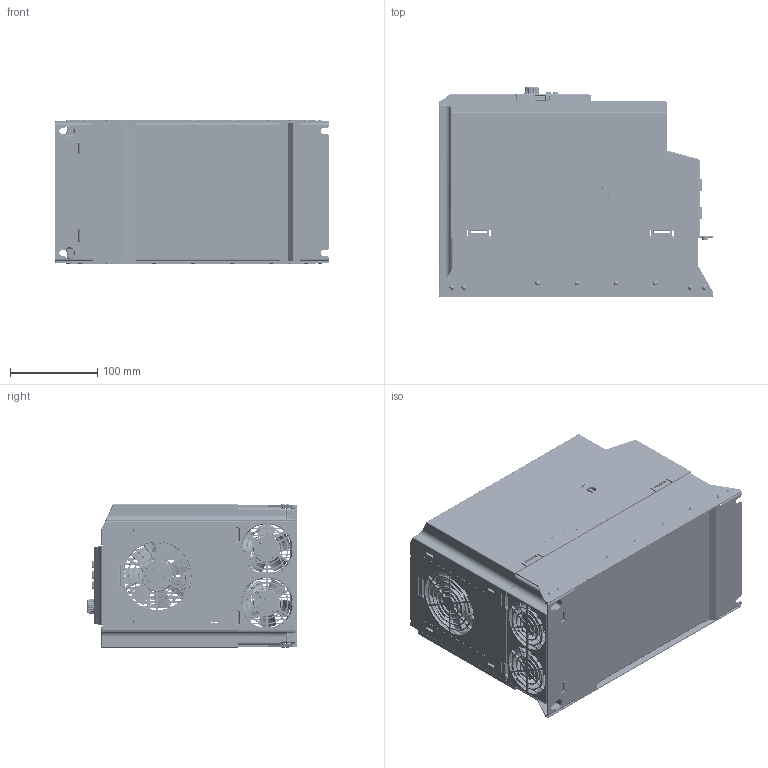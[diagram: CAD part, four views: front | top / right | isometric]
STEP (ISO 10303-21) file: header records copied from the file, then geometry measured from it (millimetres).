
FILE_DESCRIPTION((''),'2;1');
FILE_NAME('VFC3610_18K5W_ASM_ASM','2014-08-12T',('zhi2xi'),(''),'PRO/ENGINEER BY PARAMETRIC TECHNOLOGY CORPORATION, 2009380','PRO/ENGINEER BY PARAMETRIC TECHNOLOGY CORPORATION, 2009380','');
FILE_SCHEMA(('CONFIG_CONTROL_DESIGN'));
Length unit declared in the file: millimetre
Products named in the file (58): MANIFOLD_SOLID_BREP_5693; MANIFOLD_SOLID_BREP_5895; MANIFOLD_SOLID_BREP_6097; MANIFOLD_SOLID_BREP_6299; MANIFOLD_SOLID_BREP_6501; HEATSINK_ASSEMBLY_AF0_64_ASM; 123_AF0_24; RADIATOR_1_36; RIVETING_1; RIVETING_AF0_1; RIVETING_AF1_1; PE-2_6_ASM; HEATSINK_HOUSING_ASM_54_ASM; PL_EFC5610_CONVER_94; FAN_CONVER_2_29; 80X15_4; PL_EFC5610_IOCAE_CONVER_2; LK_YCP06-PLATINE_2; CPU_CONNECTOR-14P_2; CONNECTOR_2; CONNECTOR_TYCO-331_2; 548190519_2; CONNECT2-2_2; 2185-205SY3_2; 1155590000_2; LK_YCP06_ASM_2_ASM; DB272710_2; 01-IOBACK_CASE_2; LD_KCCT_M3X10_2; 01_DISPLAYCASE__2; DISPLAY_PCB1__2; R911329772__2; R911330025__2; LED__2; CONNECTOR2__2; CONNECTOR_TYCO-331__2; DISPLAY_PCB__ASM_2_ASM; BACK_CASE1__2; R911330333_FOLIE__2; BUUTTON__2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
Assembly tree (78 placements, depth 6):
  VFC3610_18K5W_ASM_ASM
    00_2013_EFC3610_18K5W_ASM_68_ASM
      HEATSINK_HOUSING_ASM_54_ASM
        HEATSINK_ASSEMBLY_AF0_64_ASM
          MANIFOLD_SOLID_BREP_5693
          MANIFOLD_SOLID_BREP_5895
          MANIFOLD_SOLID_BREP_6097
          MANIFOLD_SOLID_BREP_6299
          MANIFOLD_SOLID_BREP_6501
        123_AF0_24
        RADIATOR_1_36
        RIVETING_1  x14
        RIVETING_AF0_1
        RIVETING_AF1_1
        PE-2_6_ASM
      PL_EFC5610_CONVER_94
      FAN_CONVER_2_29
      80X15_4
      01-IOCASE_ASM_3_ASM
        PL_EFC5610_IOCAE_CONVER_2
        LK_YCP06_ASM_2_ASM
          LK_YCP06-PLATINE_2
          CPU_CONNECTOR-14P_2
          CONNECTOR_2
          CONNECTOR_TYCO-331_2
          548190519_2
          CONNECT2-2_2
          2185-205SY3_2
          1155590000_2
        DB272710_2
        01-IOBACK_CASE_2
        LD_KCCT_M3X10_2  x2
        LED_PANLE_ASM_2_ASM
          01_DISPLAYCASE__2
          DISPLAY_PCB__ASM_2_ASM
            DISPLAY_PCB1__2
            R911329772__2  x6
            R911330025__2
            LED__2
            CONNECTOR2__2
            CONNECTOR_TYCO-331__2
          BACK_CASE1__2
          R911330333_FOLIE__2
          BUUTTON__2
          XUAN_NIU__2
          LD_KCCT_M3X10__1  x2
          LABEL_15X50__2
      LOGO_REXROTH_2
      E_CONNECTOR_2X5_SCREW_1_ASM
        MANIFOLD_SOLID_BREP_491476
        MANIFOLD_SOLID_BREP_491564
        MANIFOLD_SOLID_BREP_491652
      PE-3_10_ASM
        MANIFOLD_SOLID_BREP_495195
      PE-4_11
      FAN_1_18K5_ASM_2_ASM
        FAN_COVER_1_18K5_5
        60X25_3  x2
Bounding box: 315 x 240.55 x 166 mm (x, y, z)
Volume: 1774486.6 mm3; surface area: 1640307.8 mm2
Topology: 67 solids, 73 shells, 12307 faces, 33308 edges, 21485 vertices
Faces by surface type: plane 7725, cylinder 2493, bspline 634, cone 568, torus 456, extrusion 233, sphere 198
Entity records: 393084 total; most frequent: CARTESIAN_POINT 111229, ORIENTED_EDGE 60436, DIRECTION 54858, EDGE_CURVE 30218, VECTOR 21250, LINE 21019, VERTEX_POINT 19614, AXIS2_PLACEMENT_3D 16804
